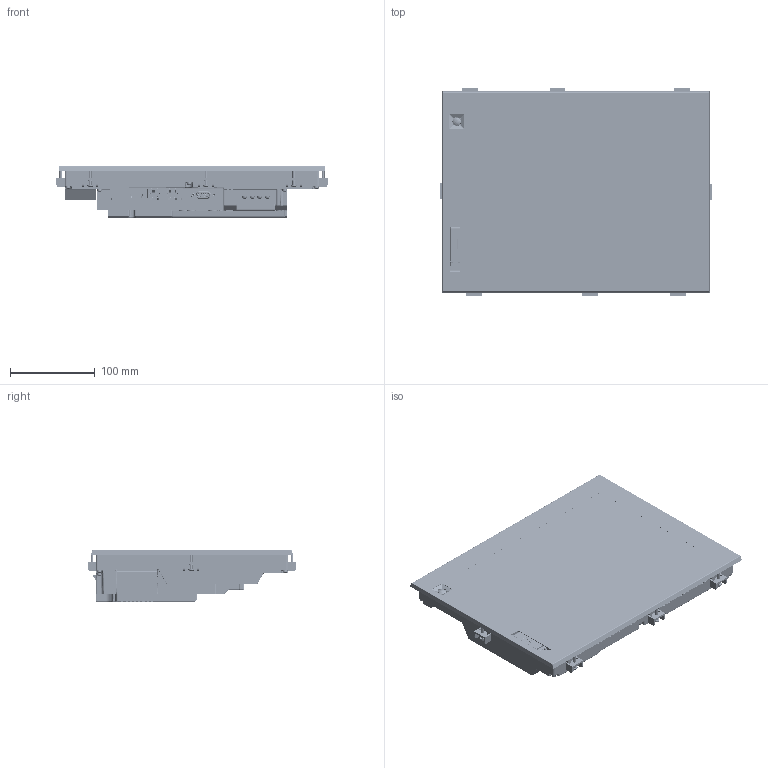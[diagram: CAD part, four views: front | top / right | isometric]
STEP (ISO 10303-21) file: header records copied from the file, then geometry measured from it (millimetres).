
FILE_DESCRIPTION((''),'2;1');
FILE_NAME('GT3712_ASM_5_ASM','2025-04-02T15:03:23',('TQ65592'),(''),'CREO PARAMETRIC BY PTC INC, 2022281','CREO PARAMETRIC BY PTC INC, 2022281','');
FILE_SCHEMA(('CONFIG_CONTROL_DESIGN'));
Products named in the file (30): GT3712_1_2; COVER_1_1; COVER_2_1; COVER_3_2; COVER_4_1; TORITUKE_1-1_1_1; TORITUKE_1-1_1_2; TORITUKE_1-1_1_ASM; TORITUKE_1-2_1_1; TORITUKE_1-2_1_2; TORITUKE_1-2_1_ASM; TORITUKE_1-3_1_1; TORITUKE_1-3_1_2; TORITUKE_1-3_1_ASM; TORITUKE_1-4_1_1; TORITUKE_1-4_1_2; TORITUKE_1-4_1_ASM; TORITUKE_1-5_1_1; TORITUKE_1-5_1_2; TORITUKE_1-5_1_ASM; TORITUKE_1-6_1_1; TORITUKE_1-6_1_2; TORITUKE_1-6_1_ASM; TORITUKE_1-7_1_1; TORITUKE_1-7_1_2; TORITUKE_1-7_1_ASM; TORITUKE_1-8_1_1; TORITUKE_1-8_1_2; TORITUKE_1-8_1_ASM; GT3712_ASM_5_ASM
Assembly tree (29 placements, depth 3):
  GT3712_ASM_5_ASM
    GT3712_1_2
    COVER_1_1
    COVER_2_1
    COVER_3_2
    COVER_4_1
    TORITUKE_1-1_1_ASM
      TORITUKE_1-1_1_1
      TORITUKE_1-1_1_2
    TORITUKE_1-2_1_ASM
      TORITUKE_1-2_1_1
      TORITUKE_1-2_1_2
    TORITUKE_1-3_1_ASM
      TORITUKE_1-3_1_1
      TORITUKE_1-3_1_2
    TORITUKE_1-4_1_ASM
      TORITUKE_1-4_1_1
      TORITUKE_1-4_1_2
    TORITUKE_1-5_1_ASM
      TORITUKE_1-5_1_1
      TORITUKE_1-5_1_2
    TORITUKE_1-6_1_ASM
      TORITUKE_1-6_1_1
      TORITUKE_1-6_1_2
    TORITUKE_1-7_1_ASM
      TORITUKE_1-7_1_1
      TORITUKE_1-7_1_2
    TORITUKE_1-8_1_ASM
      TORITUKE_1-8_1_1
      TORITUKE_1-8_1_2
Bounding box: 321.2 x 247.2 x 61 mm (x, y, z)
Volume: 2849840.1 mm3; surface area: 298690.3 mm2
Topology: 21 solids, 23 shells, 11414 faces, 31335 edges, 20377 vertices
Faces by surface type: plane 6788, cylinder 3414, extrusion 325, bspline 317, torus 268, cone 157, sphere 145
Entity records: 387253 total; most frequent: CARTESIAN_POINT 93891, ORIENTED_EDGE 62330, DIRECTION 59375, EDGE_CURVE 31165, VECTOR 21997, LINE 21672, VERTEX_POINT 20373, AXIS2_PLACEMENT_3D 18689
